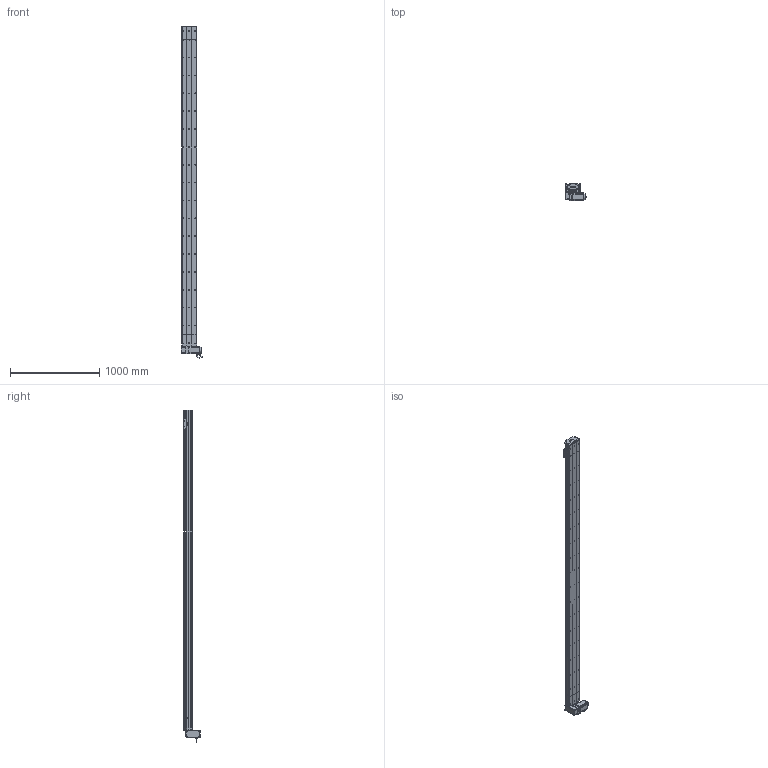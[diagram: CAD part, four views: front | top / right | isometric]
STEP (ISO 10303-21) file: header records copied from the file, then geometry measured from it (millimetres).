
FILE_DESCRIPTION (( 'STEP AP214' ), '1' );
FILE_NAME ('D17 TBN RU S3300.STEP', '2010-06-30T13:46:26', ( 'Conseil Régional Haute-Normandie' ), ( 'Conseil Régional Haute-Normandie' ), 'SwSTEP 2.0', 'SolidWorks 2010', '' );
FILE_SCHEMA (( 'AUTOMOTIVE_DESIGN' ));
Length unit declared in the file: millimetre
Products named in the file (40): corp D17B 3300_Default; cache arbre D17_Default; Tail D17B+100_Default; Vis M5 L16-2_Default; vis M5 L16_Default; Renvoi RU_Default; couvercle D17B course L3300_Default; Plaque racord D17_Default; vis M5 L70_Default; Head RU D17B_Default; Conecteur_Default; corpl head D17 _Default; corps 90BLDC125A-640; plaque de  bout head D17B RU_Default; couvercle D17B head_Default; Conecteur2_Default; codeur 90BLDC125-640; Arbre+rail head D17B; avant 90BLDC125A-640; Moteur motionking 90BLDC125A-640; couroie head D17_Default; cache D17_Default; poulie head_Default; vis M5 L5_Default; guide D17; Chariot D17 TBN; chariot D17 TBN; couvercle D17B_Default; Couroie tail D17B_Default; poulie tail_Default; vis M5 L25_Default; vis M5 L12_Default; vis M5 L8 90°_Default; plaque de  bout tail D17B_Default; Rail D17B; tete d''axe poulie D17B; corp tail D17B+100_Default; Couroie+ rail D17 Course 3300 ; course 3300 D17B_Default; D17 TBN RU S3300
Assembly tree (66 placements, depth 4):
  D17 TBN RU S3300
    Tail D17B+100_Default
      vis M5 L12_Default  x4
      vis M5 L25_Default  x2
      plaque de  bout tail D17B_Default
      vis M5 L8 90°_Default  x2
      poulie tail_Default
      corp tail D17B+100_Default
      Couroie tail D17B_Default
      Rail D17B
      couvercle D17B_Default
      tete d''axe poulie D17B
    course 3300 D17B_Default
      couvercle D17B course L3300_Default
      Couroie+ rail D17 Course 3300 
      corp D17B 3300_Default
    chariot D17 TBN
      Chariot D17 TBN
      guide D17  x2
    Head RU D17B_Default
      vis M5 L5_Default  x4
      Renvoi RU_Default
      vis M5 L70_Default  x4
      vis M5 L16_Default  x2
      Moteur motionking 90BLDC125A-640
        Conecteur2_Default
        corps 90BLDC125A-640
        codeur 90BLDC125-640
        Conecteur_Default
        avant 90BLDC125A-640
      Vis M5 L16-2_Default  x4
      poulie head_Default
      vis M5 L12_Default  x8
      cache D17_Default  x2
      plaque de  bout head D17B RU_Default
      cache arbre D17_Default
      vis M5 L25_Default  x2
      couvercle D17B head_Default
      corpl head D17 _Default
      Plaque racord D17_Default
      Arbre+rail head D17B
      couroie head D17_Default
Bounding box: 245.2 x 188.65 x 3717.95 mm (x, y, z)
Volume: 20869462.7 mm3; surface area: 6116846.7 mm2
Topology: 89 solids, 89 shells, 2679 faces, 6931 edges, 4466 vertices
Faces by surface type: plane 1537, cylinder 845, bspline 136, cone 80, torus 77, sphere 4
Entity records: 87621 total; most frequent: CARTESIAN_POINT 25865, ORIENTED_EDGE 11034, DIRECTION 10398, EDGE_CURVE 5517, VERTEX_POINT 3610, LINE 3572, VECTOR 3572, AXIS2_PLACEMENT_3D 3413
